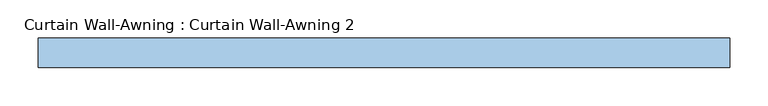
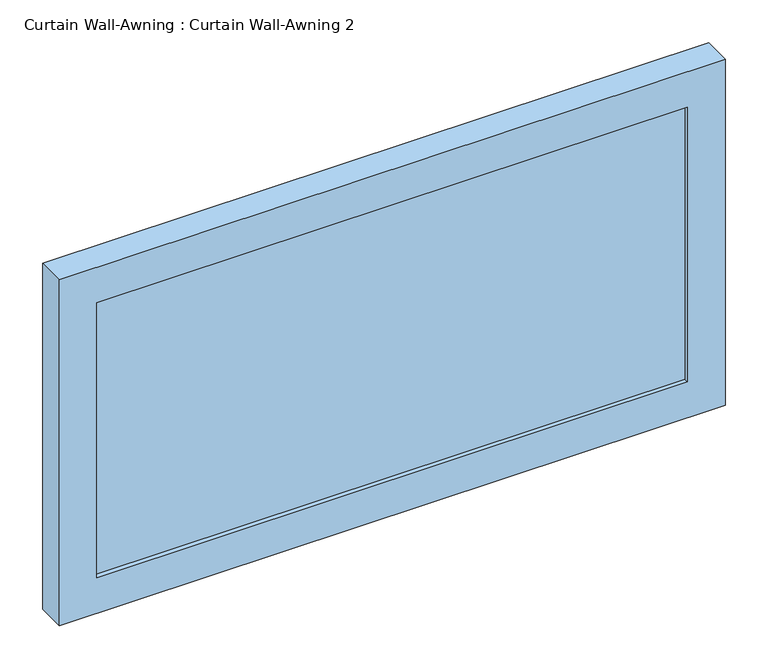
"""IFC4 building model written with IfcOpenShell, lengths in millimetres: window geometry, Curtain Wall-Awning : Curtain Wall-Awning 2."""

from ifc_helpers import new_model, si_unit, frame, origin, place, context, project, spatial, polyline, outline, extrude, source, transform, mapped, element, save


def curtain_wall_awning_curtain_wall_awning_2_b9894014(model_context):
    return source(origin(), model_context, "Body", "SweptSolid", [
        extrude(outline(polyline([(397.9333333, 19.05), (397.9333333, 6.35), (-397.9333333, 6.35), (-397.9333333, 19.05), (397.9333333, 19.05)])), frame((0.0, 0.0, 50.8), z_axis=(0.0, 0.0, 1.0), x_axis=(1.0, 0.0, 0.0)), (0.0, 0.0, 1.0), 391.4821279),
        extrude(outline(polyline([(493.0821279, -448.7333333), (0.0, -448.7333333), (0.0, 448.7333333), (493.0821279, 448.7333333), (493.0821279, -448.7333333)]), holes=[polyline([(442.2821279, -397.9333333), (442.2821279, 397.9333333), (50.8, 397.9333333), (50.8, -397.9333333), (442.2821279, -397.9333333)])]), frame((0.0, 0.0, 0.0), z_axis=(0.0, 1.0, 0.0), x_axis=(0.0, 0.0, 1.0)), (0.0, 0.0, 1.0), 38.1),
    ])


if __name__ == "__main__":
    model = new_model("IFC4")
    model_context = context("Model", 3, world=origin())
    ifc_project = project(units=[si_unit("LENGTHUNIT", "METRE", prefix="MILLI")], contexts=[model_context])
    site = spatial("IfcSite", under=ifc_project)
    building = spatial("IfcBuilding", under=site)
    placement = place(None, origin())
    curtain_wall_awning_curtain_wall_awning_2_shape = curtain_wall_awning_curtain_wall_awning_2_b9894014(model_context)
    element("IfcWindow", 1, ObjectType="Curtain Wall-Awning : Curtain Wall-Awning 2", at=placement, inside=building, context=model_context, shape_type="MappedRepresentation", body=[
        mapped(curtain_wall_awning_curtain_wall_awning_2_shape, transform((0.0, 0.0, 0.0), x_axis=(1.0, 0.0, 0.0), y_axis=(0.0, 1.0, 0.0), z_axis=(0.0, 0.0, 1.0))),
    ])
    save(model, "model.ifc")
